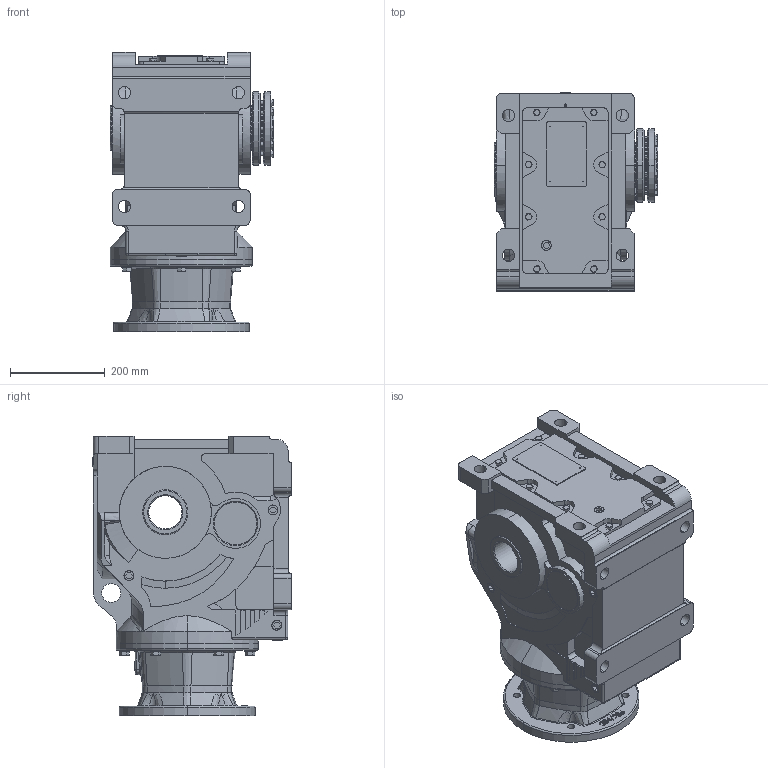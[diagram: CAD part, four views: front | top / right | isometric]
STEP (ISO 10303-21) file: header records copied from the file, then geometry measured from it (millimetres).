
FILE_DESCRIPTION (( 'STEP AP203' ), '1' );
FILE_NAME ('KHN97-284TC-A-POWER LOCK.STEP', '2020-12-04T06:19:29', ( 'Microsoft' ), ( 'Microsoft' ), 'SwSTEP 2.0', 'SolidWorks 2012', '' );
FILE_SCHEMA (( 'CONFIG_CONTROL_DESIGN' ));
Length unit declared in the file: millimetre
Products named in the file (1): KHN97-284TC-A-POWER LOCK
Bounding box: 345 x 417.5 x 588.5 mm (x, y, z)
Volume: 44218185.4 mm3; surface area: 1558508.5 mm2
Topology: 2 solids, 30 shells, 1819 faces, 4515 edges, 2849 vertices
Faces by surface type: plane 726, cylinder 516, cone 359, bspline 186, torus 30, sphere 2
Entity records: 65008 total; most frequent: CARTESIAN_POINT 22624, ORIENTED_EDGE 8914, DIRECTION 8550, EDGE_CURVE 4457, AXIS2_PLACEMENT_3D 3179, VERTEX_POINT 2849, VECTOR 2192, LINE 2192
